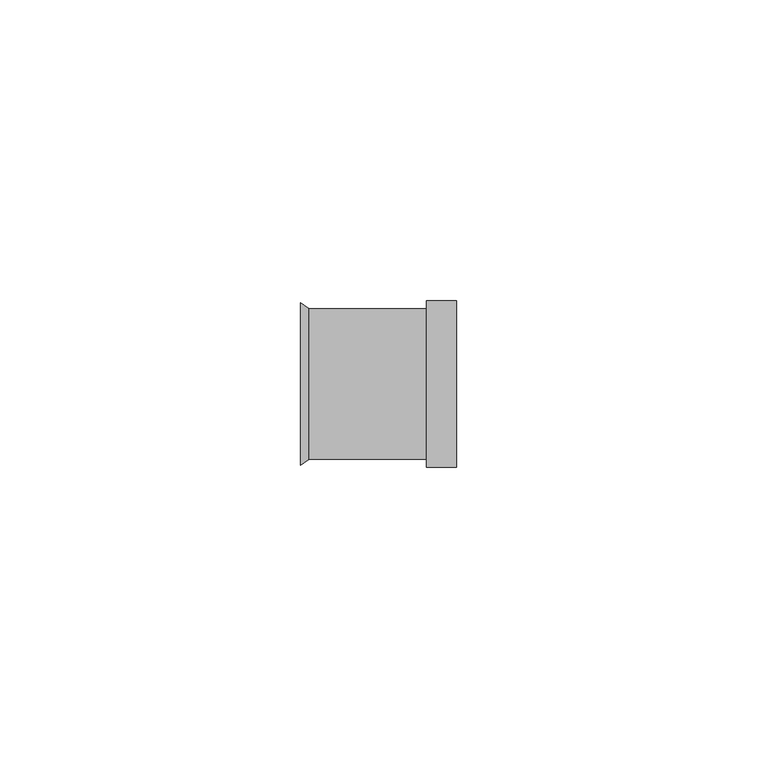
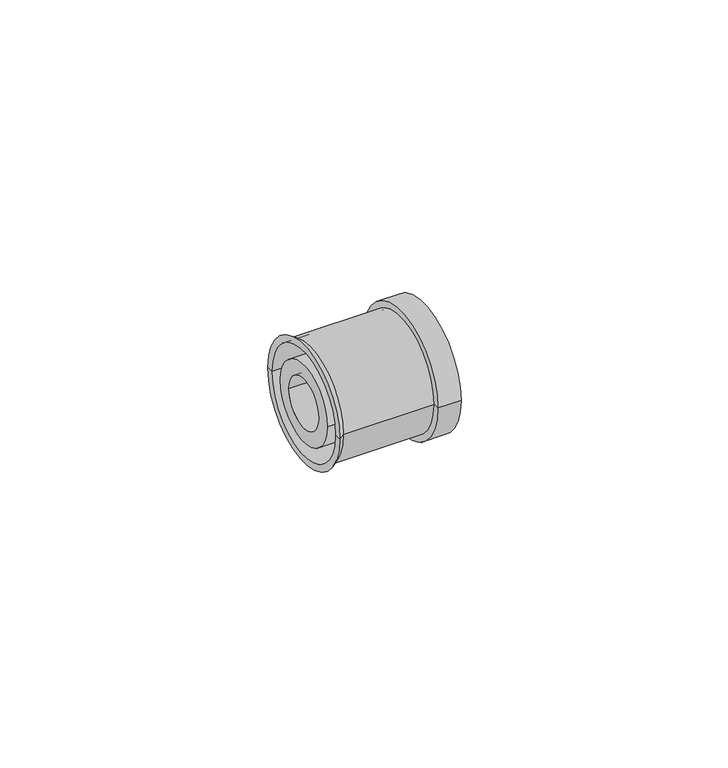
"""IFC4 building model written with IfcOpenShell, lengths in millimetres: pipe fitting geometry, AmancoWavin_Unionesdetubería_TigrisFlexZNoUsarCampana : Tigris K5."""

from ifc_helpers import new_model, si_unit, point, frame, origin, origin_2d, place, context, project, spatial, polyline, circle_curve, trimmed, segment, composite_curve, outline, extrude, source, transform, mapped, element, save
from ifc_brep_helpers import plane_surface, cylinder_surface, revolved_surface, advanced_brep


def pipe_fitting_eaf84391(model_context):
    return source(origin(), model_context, "Body", "SolidModel", [
        advanced_brep(
        [(-5.0, -12.5, 0.0), (-5.0, 12.5, 0.0), (-5.0, 13.8888889, 0.0), (-5.0, -13.8888889, 0.0), (-24.5489984, -12.5, 0.0), (-24.5489984, 12.5, 0.0), (-26.0, -12.0, 0.0), (-26.0, 12.0, 0.0), (-26.0, 13.5, 0.0), (-26.0, -13.5, 0.0), (-5.0, -12.0, 0.0), (-5.0, 12.0, 0.0), (-5.0, 0.0, 0.0), (0.0, -13.8888889, 0.0), (0.0, 13.8888889, 0.0), (0.0, 0.0, 0.0)],
        [
            (0, 1, circle_curve(frame((-5.0, 0.0, 0.0), z_axis=(1.0, 0.0, 0.0), x_axis=(0.0, 1.0, 0.0)), 12.5)),
            (1, 2),
            (2, 3, circle_curve(frame((-5.0, 0.0, 0.0), z_axis=(-1.0, 0.0, 0.0), x_axis=(0.0, 1.0, 0.0)), 13.8888889)),
            (3, 0),
            (1, 0, circle_curve(frame((-5.0, 0.0, 0.0), z_axis=(1.0, 0.0, 0.0), x_axis=(0.0, 1.0, 0.0)), 12.5)),
            (3, 2, circle_curve(frame((-5.0, 0.0, 0.0), z_axis=(-1.0, 0.0, 0.0), x_axis=(0.0, 1.0, 0.0)), 13.8888889)),
            (4, 5, circle_curve(frame((-24.5489984, 0.0, 0.0), z_axis=(1.0, 0.0, 0.0), x_axis=(0.0, 1.0, 0.0)), 12.5)),
            (5, 1),
            (0, 4),
            (5, 4, circle_curve(frame((-24.5489984, 0.0, 0.0), z_axis=(1.0, 0.0, 0.0), x_axis=(0.0, 1.0, 0.0)), 12.5)),
            (6, 7, circle_curve(frame((-26.0, 0.0, 0.0), z_axis=(1.0, 0.0, 0.0), x_axis=(0.0, 1.0, 0.0)), 12.0)),
            (7, 8),
            (8, 9, circle_curve(frame((-26.0, 0.0, 0.0), z_axis=(-1.0, 0.0, 0.0), x_axis=(0.0, 1.0, 0.0)), 13.5)),
            (9, 6),
            (7, 6, circle_curve(frame((-26.0, 0.0, 0.0), z_axis=(1.0, 0.0, 0.0), x_axis=(0.0, 1.0, 0.0)), 12.0)),
            (9, 8, circle_curve(frame((-26.0, 0.0, 0.0), z_axis=(-1.0, 0.0, 0.0), x_axis=(0.0, 1.0, 0.0)), 13.5)),
            (10, 11, circle_curve(frame((-5.0, 0.0, 0.0), z_axis=(1.0, 0.0, 0.0), x_axis=(0.0, 1.0, 0.0)), 12.0)),
            (11, 7),
            (6, 10),
            (11, 10, circle_curve(frame((-5.0, 0.0, 0.0), z_axis=(1.0, 0.0, 0.0), x_axis=(0.0, 1.0, 0.0)), 12.0)),
            (12, 11),
            (10, 12),
            (13, 14, circle_curve(frame((0.0, 0.0, 0.0), z_axis=(1.0, 0.0, 0.0), x_axis=(0.0, 1.0, 0.0)), 13.8888889)),
            (14, 15),
            (15, 13),
            (14, 13, circle_curve(frame((0.0, 0.0, 0.0), z_axis=(1.0, 0.0, 0.0), x_axis=(0.0, 1.0, 0.0)), 13.8888889)),
            (2, 14),
            (13, 3),
            (8, 5),
            (4, 9),
        ],
        [
            plane_surface(frame((-5.0, 0.0, 0.0), z_axis=(-1.0, 0.0, 0.0), x_axis=(0.0, 1.0, 0.0))),
            cylinder_surface(frame((1999.0, 0.0, 0.0), z_axis=(-1.0, 0.0, 0.0), x_axis=(0.0, 1.0, 0.0)), 12.5),
            plane_surface(frame((-26.0, 0.0, 0.0), z_axis=(-1.0, 0.0, 0.0), x_axis=(0.0, 1.0, 0.0))),
            revolved_surface(polyline([(-26.0, 12.0, 0.0), (-5.0, 12.0, 0.0)]), (1999.0, 0.0, 0.0), (-1.0, 0.0, 0.0)),
            plane_surface(frame((0.0, 0.0, 0.0), z_axis=(1.0, 0.0, 0.0), x_axis=(0.0, 1.0, 0.0))),
            cylinder_surface(frame((1999.0, 0.0, 0.0), z_axis=(-1.0, 0.0, 0.0), x_axis=(0.0, 1.0, 0.0)), 13.8888889),
            revolved_surface(polyline([(-24.5489984, 12.5, 0.0), (-26.0, 13.5, 0.0)]), (1999.0, 0.0, 0.0), (-1.0, 0.0, 0.0)),
        ],
        [
            (0, [[1, 2, 3, 4]]),
            (0, [[5, -4, 6, -2]]),
            (1, [[7, 8, -1, 9]]),
            (1, [[10, -9, -5, -8]]),
            (2, [[11, 12, 13, 14]]),
            (2, [[15, -14, 16, -12]]),
            (3, [[17, 18, -11, 19]]),
            (3, [[20, -19, -15, -18]]),
            (0, [[21, -17, 22]]),
            (0, [[-22, -20, -21]]),
            (4, [[23, 24, 25]]),
            (4, [[26, -25, -24]]),
            (5, [[-3, 27, -23, 28]]),
            (5, [[-6, -28, -26, -27]]),
            (6, [[-13, 29, -7, 30]]),
            (6, [[-16, -30, -10, -29]]),
        ],
    ),
        extrude(outline(composite_curve([segment(trimmed(circle_curve(origin_2d(), 8.8), [point((-8.8, 0.0))], [point((8.8, 0.0))], False, "CARTESIAN"), True, "CONTINUOUS"), segment(trimmed(circle_curve(origin_2d(), 8.8), [point((8.8, 0.0))], [point((-8.8, 0.0))], False, "CARTESIAN"), True, "CONTINUOUS")], self_intersect=False), holes=[composite_curve([segment(trimmed(circle_curve(origin_2d(), 5.6), [point((-5.6, 0.0))], [point((5.6, 0.0))], True, "CARTESIAN"), True, "CONTINUOUS"), segment(trimmed(circle_curve(origin_2d(), 5.6), [point((5.6, 0.0))], [point((-5.6, 0.0))], True, "CARTESIAN"), True, "CONTINUOUS")], self_intersect=False)]), frame((-26.0, 0.0, 0.0), z_axis=(1.0, 0.0, 0.0), x_axis=(0.0, 1.0, 0.0)), (0.0, 0.0, 1.0), 26.0),
    ])


if __name__ == "__main__":
    model = new_model("IFC4")
    model_context = context("Model", 3, world=origin())
    ifc_project = project(units=[si_unit("LENGTHUNIT", "METRE", prefix="MILLI")], contexts=[model_context])
    site = spatial("IfcSite", under=ifc_project)
    building = spatial("IfcBuilding", under=site)
    placement = place(None, origin())
    pipe_fitting_shape = pipe_fitting_eaf84391(model_context)
    element("IfcPipeFitting", 1, ObjectType="AmancoWavin_Unionesdetubería_TigrisFlexZNoUsarCampana : Tigris K5", at=placement, inside=building, context=model_context, shape_type="MappedRepresentation", body=[
        mapped(pipe_fitting_shape, transform((0.0, 0.0, 0.0), x_axis=(1.0, 0.0, 0.0), y_axis=(0.0, 1.0, 0.0), z_axis=(0.0, 0.0, 1.0))),
    ])
    save(model, "model.ifc")
